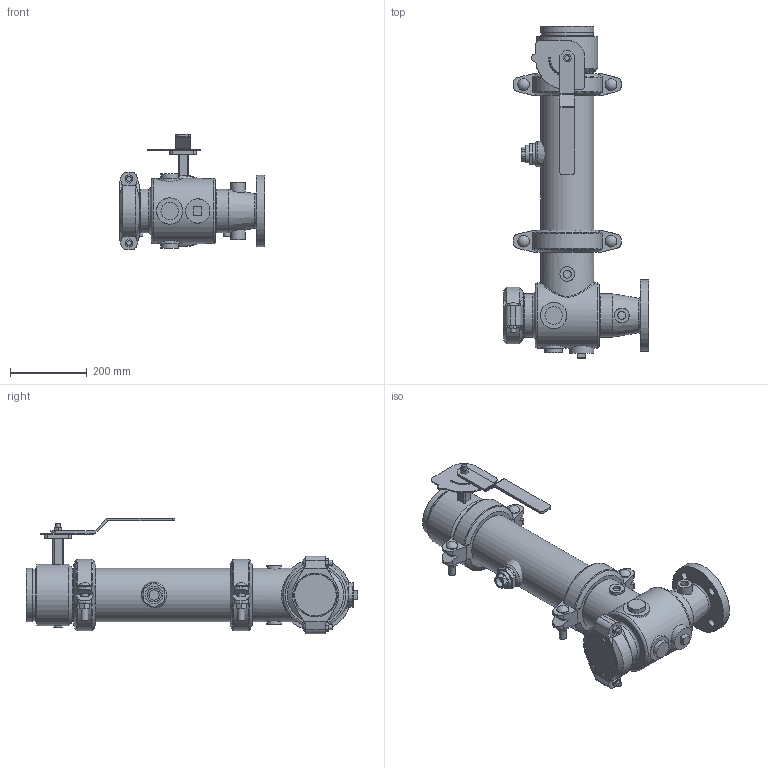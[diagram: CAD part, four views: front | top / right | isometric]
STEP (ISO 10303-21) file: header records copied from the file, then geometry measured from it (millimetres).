
FILE_DESCRIPTION(/* description */ ('VIC SVI PUMP DROP HORZ S/391 (OGSxFLG)','CAx-IF Rec.Pracs.---Representation and Presentation of Product Manufacturing Information (PMI)---4.0---2014-10-13'),/* implementation_level */ '2;1');
FILE_NAME(/* name */ 'C:\Users\kkamble\AppData\Roaming\Autodesk\ApplicationPlugins\Back Up\Victaulic_PN10_Series 391 (OGSxFLG)\Victaulic_PN10_Series 391 (OGSxFLG)_05.0 (139.7)x02.5 (76.1) (125x65).stp',/* time_stamp */ '2020-11-26T23:43:49+05:00',/* author */ ('kkamble'),/* organization */ ('Victaulic'),/* preprocessor_version */ 'ST-DEVELOPER v17.2',/* originating_system */ 'Autodesk Inventor 2019',/* authorisation */ '');
FILE_SCHEMA (('AP242_MANAGED_MODEL_BASED_3D_ENGINEERING_MIM_LF { 1 0 10303 442 1 1 4 }'));
Length unit declared in the file: inch
Products named in the file (9): 391-05.0 (139.7)x02.5 (76.1); 731D-05.0 (139.7)x02.5 (76.1); 731D-05.0 (139.7)x02.5 (76.1)_1; 731D-05.0; 07-04.0; PIPE-05.0 (139.7); 177N-05.0 (139.7); 761-05.0 (139.7); 923-04.0x0.75
Assembly tree (9 placements, depth 3):
  391-05.0 (139.7)x02.5 (76.1)
    731D-05.0 (139.7)x02.5 (76.1)
      731D-05.0 (139.7)x02.5 (76.1)_1
      731D-05.0
      07-04.0
    177N-05.0 (139.7)  x2
    PIPE-05.0 (139.7)
    761-05.0 (139.7)
    923-04.0x0.75
Bounding box: 381 x 866.9 x 301.53 mm (x, y, z)
Volume: 7898126.3 mm3; surface area: 1390338.5 mm2
Topology: 8 solids, 11 shells, 527 faces, 1365 edges, 921 vertices
Faces by surface type: plane 297, cylinder 187, cone 19, torus 17, sphere 6, bspline 1
Full cylindrical faces by diameter (mm): 4.826 x10, 8.636 x4, 12.7 x6, 17.78 x4, 20.955 x4, 21.006 x4, 22.225 x2, 22.86 x1, 26.67 x1, 30.48 x4, 38.1 x4, 45.72 x3, 45.974 x2, 55.118 x1, 55.626 x1, 63.5 x2, 84.074 x1, 90.678 x1, 96.52 x1, 107.95 x1, 110.084 x2, 113.03 x1, 114.3 x5, 121.412 x1, 126.594 x1, 127 x2, 128.194 x1, 135.484 x5, 139.7 x13, 160.02 x1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
Entity records: 15441 total; most frequent: CARTESIAN_POINT 3509, DIRECTION 2453, ORIENTED_EDGE 2250, EDGE_CURVE 1125, AXIS2_PLACEMENT_3D 934, VERTEX_POINT 762, LINE 585, VECTOR 585
